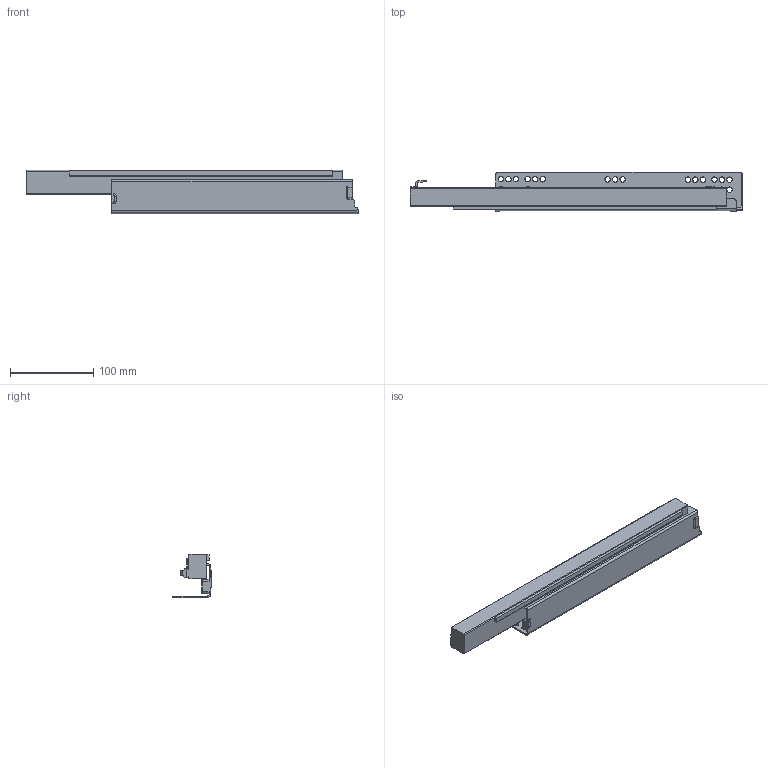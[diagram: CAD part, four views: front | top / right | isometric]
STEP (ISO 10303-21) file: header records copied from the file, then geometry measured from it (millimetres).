
FILE_DESCRIPTION (( 'STEP AP203' ), '1' );
FILE_NAME ('HT104004H-R(敕磁).STEP', '2021-07-31T01:21:38', ( 'Users' ), ( 'Microsoft' ), 'SwSTEP 2.0', 'SolidWorks 2018', '' );
FILE_SCHEMA (( 'CONFIG_CONTROL_DESIGN' ));
Length unit declared in the file: millimetre
Products named in the file (1): HT104004H-R(敕磁)
Bounding box: 398 x 47.5 x 51.73 mm (x, y, z)
Volume: 329829.5 mm3; surface area: 96898.7 mm2
Topology: 1 solids, 1 shells, 212 faces, 560 edges, 350 vertices
Faces by surface type: cylinder 94, plane 64, cone 40, torus 12, sphere 2
Entity records: 6719 total; most frequent: DIRECTION 1227, CARTESIAN_POINT 1136, ORIENTED_EDGE 1116, EDGE_CURVE 558, AXIS2_PLACEMENT_3D 461, VERTEX_POINT 350, LINE 305, VECTOR 305
